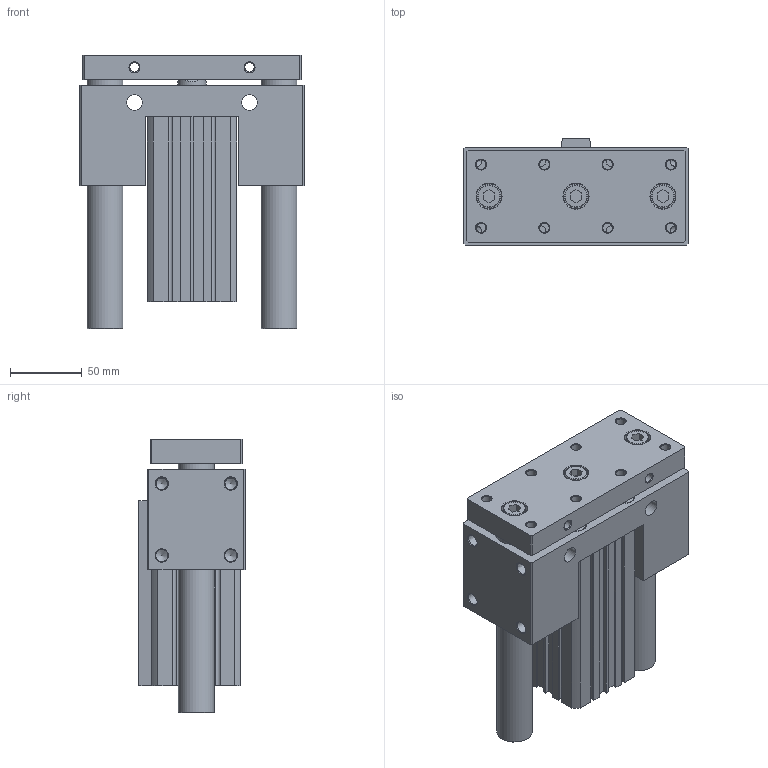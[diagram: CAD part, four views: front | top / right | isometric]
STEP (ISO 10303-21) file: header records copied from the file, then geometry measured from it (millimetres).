
FILE_DESCRIPTION((''),'2;1');
FILE_NAME('I:\3D電子目錄\氣缸\JCB\JCB\JCB50\JCB50x100.stp','2007-08-30T16:27:15',('Administrator'),(''),'Autodesk Inventor 11','Autodesk Inventor 11','');
FILE_SCHEMA(('AUTOMOTIVE_DESIGN { 1 0 10303 214 1 1 1 1 }'));
Length unit declared in the file: millimetre
Products named in the file (1): JCB50
Bounding box: 156 x 74 x 190.5 mm (x, y, z)
Volume: 1190320.7 mm3; surface area: 207004.8 mm2
Topology: 3 solids, 3 shells, 328 faces, 786 edges, 510 vertices
Faces by surface type: plane 190, cylinder 58, cone 45, bspline 31, torus 4
Full cylindrical faces by diameter (mm): 2.7 x2, 6.8 x4, 8.376 x4, 11 x8, 13 x4, 14 x4, 16 x3, 17.5 x3, 20 x1, 21 x1, 25 x2, 28 x2, 37 x1, 38 x1, 52 x4, 55 x2
Entity records: 9390 total; most frequent: CARTESIAN_POINT 2294, DIRECTION 1434, ORIENTED_EDGE 1264, EDGE_CURVE 632, EDGE_LOOP 536, AXIS2_PLACEMENT_3D 512, VERTEX_POINT 480, VECTOR 410
